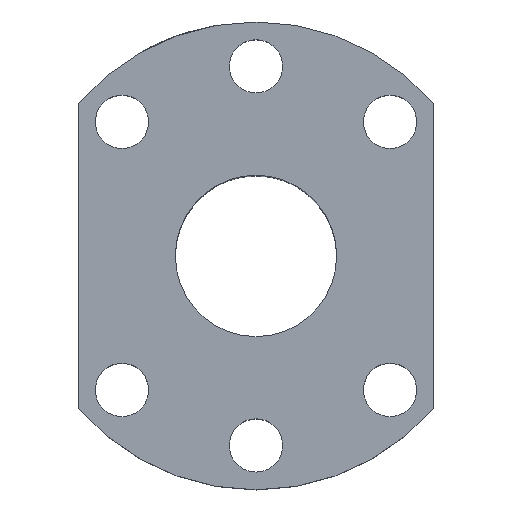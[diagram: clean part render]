
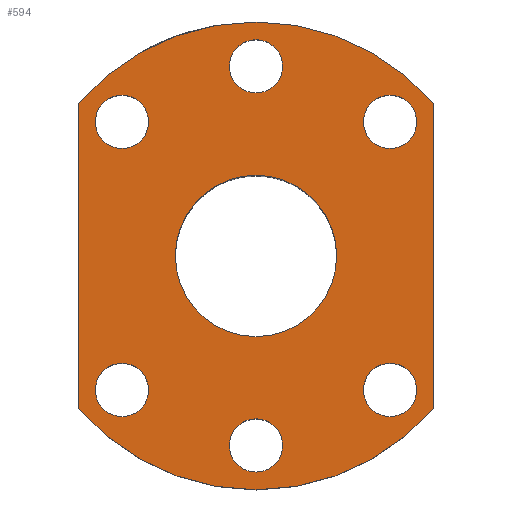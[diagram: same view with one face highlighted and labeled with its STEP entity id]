
A CAD part, top view. The second image highlights one B-rep face of the part: STEP entity #594.
In plain terms, the highlighted planar face has unit normal (0, 0, 1).
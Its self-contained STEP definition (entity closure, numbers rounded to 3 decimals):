
#67=CARTESIAN_POINT('',(0.,0.,34.5));
#68=DIRECTION('',(0.,0.,-1.));
#69=DIRECTION('',(1.,0.,0.));
#70=AXIS2_PLACEMENT_3D('',#67,#68,#69);
#72=CARTESIAN_POINT('',(0.,0.,34.5));
#73=DIRECTION('',(0.,0.,-1.));
#74=DIRECTION('',(-1.,0.,0.));
#75=AXIS2_PLACEMENT_3D('',#72,#73,#74);
#77=CARTESIAN_POINT('',(16.617,16.617,34.5));
#78=DIRECTION('',(0.,0.,-1.));
#79=DIRECTION('',(1.,0.,0.));
#80=AXIS2_PLACEMENT_3D('',#77,#78,#79);
#82=CARTESIAN_POINT('',(16.617,16.617,34.5));
#83=DIRECTION('',(0.,0.,-1.));
#84=DIRECTION('',(-1.,0.,0.));
#85=AXIS2_PLACEMENT_3D('',#82,#83,#84);
#87=CARTESIAN_POINT('',(0.,23.5,34.5));
#88=DIRECTION('',(0.,0.,-1.));
#89=DIRECTION('',(1.,0.,0.));
#90=AXIS2_PLACEMENT_3D('',#87,#88,#89);
#92=CARTESIAN_POINT('',(0.,23.5,34.5));
#93=DIRECTION('',(0.,0.,-1.));
#94=DIRECTION('',(-1.,0.,0.));
#95=AXIS2_PLACEMENT_3D('',#92,#93,#94);
#97=CARTESIAN_POINT('',(-16.617,16.617,34.5));
#98=DIRECTION('',(0.,0.,-1.));
#99=DIRECTION('',(1.,0.,0.));
#100=AXIS2_PLACEMENT_3D('',#97,#98,#99);
#102=CARTESIAN_POINT('',(-16.617,16.617,34.5));
#103=DIRECTION('',(0.,0.,-1.));
#104=DIRECTION('',(-1.,0.,0.));
#105=AXIS2_PLACEMENT_3D('',#102,#103,#104);
#107=CARTESIAN_POINT('',(-16.617,-16.617,34.5));
#108=DIRECTION('',(0.,0.,-1.));
#109=DIRECTION('',(1.,0.,0.));
#110=AXIS2_PLACEMENT_3D('',#107,#108,#109);
#112=CARTESIAN_POINT('',(-16.617,-16.617,34.5));
#113=DIRECTION('',(0.,0.,-1.));
#114=DIRECTION('',(-1.,0.,0.));
#115=AXIS2_PLACEMENT_3D('',#112,#113,#114);
#117=CARTESIAN_POINT('',(0.,-23.5,34.5));
#118=DIRECTION('',(0.,0.,-1.));
#119=DIRECTION('',(1.,0.,0.));
#120=AXIS2_PLACEMENT_3D('',#117,#118,#119);
#122=CARTESIAN_POINT('',(0.,-23.5,34.5));
#123=DIRECTION('',(0.,0.,-1.));
#124=DIRECTION('',(-1.,0.,0.));
#125=AXIS2_PLACEMENT_3D('',#122,#123,#124);
#127=CARTESIAN_POINT('',(16.617,-16.617,34.5));
#128=DIRECTION('',(0.,0.,-1.));
#129=DIRECTION('',(1.,0.,0.));
#130=AXIS2_PLACEMENT_3D('',#127,#128,#129);
#132=CARTESIAN_POINT('',(16.617,-16.617,34.5));
#133=DIRECTION('',(0.,0.,-1.));
#134=DIRECTION('',(-1.,0.,0.));
#135=AXIS2_PLACEMENT_3D('',#132,#133,#134);
#137=CARTESIAN_POINT('',(0.,0.,34.5));
#138=DIRECTION('',(0.,0.,1.));
#139=DIRECTION('',(0.759,0.652,0.));
#140=AXIS2_PLACEMENT_3D('',#137,#138,#139);
#142=DIRECTION('',(0.,1.,0.));
#143=VECTOR('',#142,37.789);
#144=CARTESIAN_POINT('',(22.,-18.894,34.5));
#145=LINE('',#144,#143);
#146=CARTESIAN_POINT('',(0.,0.,34.5));
#147=DIRECTION('',(0.,0.,1.));
#148=DIRECTION('',(-0.759,-0.652,0.));
#149=AXIS2_PLACEMENT_3D('',#146,#147,#148);
#151=DIRECTION('',(0.,-1.,0.));
#152=VECTOR('',#151,37.789);
#153=CARTESIAN_POINT('',(-22.,18.894,34.5));
#154=LINE('',#153,#152);
#431=CARTESIAN_POINT('',(10.,0.,34.5));
#432=CARTESIAN_POINT('',(-10.,0.,34.5));
#433=VERTEX_POINT('',#431);
#434=VERTEX_POINT('',#432);
#435=CARTESIAN_POINT('',(19.917,16.617,34.5));
#436=CARTESIAN_POINT('',(13.317,16.617,34.5));
#437=VERTEX_POINT('',#435);
#438=VERTEX_POINT('',#436);
#439=CARTESIAN_POINT('',(3.3,23.5,34.5));
#440=CARTESIAN_POINT('',(-3.3,23.5,34.5));
#441=VERTEX_POINT('',#439);
#442=VERTEX_POINT('',#440);
#443=CARTESIAN_POINT('',(-13.317,16.617,34.5));
#444=CARTESIAN_POINT('',(-19.917,16.617,34.5));
#445=VERTEX_POINT('',#443);
#446=VERTEX_POINT('',#444);
#447=CARTESIAN_POINT('',(-13.317,-16.617,34.5));
#448=CARTESIAN_POINT('',(-19.917,-16.617,34.5));
#449=VERTEX_POINT('',#447);
#450=VERTEX_POINT('',#448);
#451=CARTESIAN_POINT('',(3.3,-23.5,34.5));
#452=CARTESIAN_POINT('',(-3.3,-23.5,34.5));
#453=VERTEX_POINT('',#451);
#454=VERTEX_POINT('',#452);
#455=CARTESIAN_POINT('',(19.917,-16.617,34.5));
#456=CARTESIAN_POINT('',(13.317,-16.617,34.5));
#457=VERTEX_POINT('',#455);
#458=VERTEX_POINT('',#456);
#459=CARTESIAN_POINT('',(22.,18.894,34.5));
#460=CARTESIAN_POINT('',(-22.,18.894,34.5));
#461=VERTEX_POINT('',#459);
#462=VERTEX_POINT('',#460);
#463=CARTESIAN_POINT('',(-22.,-18.894,34.5));
#464=VERTEX_POINT('',#463);
#465=CARTESIAN_POINT('',(22.,-18.894,34.5));
#466=VERTEX_POINT('',#465);
#539=CARTESIAN_POINT('',(0.,0.,34.5));
#540=DIRECTION('',(0.,0.,1.));
#541=DIRECTION('',(1.,0.,0.));
#542=AXIS2_PLACEMENT_3D('',#539,#540,#541);
#543=PLANE('',#542);
#545=ORIENTED_EDGE('',*,*,#544,.F.);
#547=ORIENTED_EDGE('',*,*,#546,.F.);
#549=ORIENTED_EDGE('',*,*,#548,.F.);
#551=ORIENTED_EDGE('',*,*,#550,.F.);
#552=EDGE_LOOP('',(#545,#547,#549,#551));
#553=FACE_OUTER_BOUND('',#552,.F.);
#555=ORIENTED_EDGE('',*,*,#554,.F.);
#557=ORIENTED_EDGE('',*,*,#556,.F.);
#558=EDGE_LOOP('',(#555,#557));
#559=FACE_BOUND('',#558,.F.);
#561=ORIENTED_EDGE('',*,*,#560,.F.);
#563=ORIENTED_EDGE('',*,*,#562,.F.);
#564=EDGE_LOOP('',(#561,#563));
#565=FACE_BOUND('',#564,.F.);
#567=ORIENTED_EDGE('',*,*,#566,.F.);
#569=ORIENTED_EDGE('',*,*,#568,.F.);
#570=EDGE_LOOP('',(#567,#569));
#571=FACE_BOUND('',#570,.F.);
#573=ORIENTED_EDGE('',*,*,#572,.F.);
#575=ORIENTED_EDGE('',*,*,#574,.F.);
#576=EDGE_LOOP('',(#573,#575));
#577=FACE_BOUND('',#576,.F.);
#579=ORIENTED_EDGE('',*,*,#578,.F.);
#581=ORIENTED_EDGE('',*,*,#580,.F.);
#582=EDGE_LOOP('',(#579,#581));
#583=FACE_BOUND('',#582,.F.);
#585=ORIENTED_EDGE('',*,*,#584,.F.);
#587=ORIENTED_EDGE('',*,*,#586,.F.);
#588=EDGE_LOOP('',(#585,#587));
#589=FACE_BOUND('',#588,.F.);
#590=ORIENTED_EDGE('',*,*,#512,.F.);
#591=ORIENTED_EDGE('',*,*,#526,.F.);
#592=EDGE_LOOP('',(#590,#591));
#593=FACE_BOUND('',#592,.F.);
#71=CIRCLE('',#70,10.);
#76=CIRCLE('',#75,10.);
#81=CIRCLE('',#80,3.3);
#86=CIRCLE('',#85,3.3);
#91=CIRCLE('',#90,3.3);
#96=CIRCLE('',#95,3.3);
#101=CIRCLE('',#100,3.3);
#106=CIRCLE('',#105,3.3);
#111=CIRCLE('',#110,3.3);
#116=CIRCLE('',#115,3.3);
#121=CIRCLE('',#120,3.3);
#126=CIRCLE('',#125,3.3);
#131=CIRCLE('',#130,3.3);
#136=CIRCLE('',#135,3.3);
#141=CIRCLE('',#140,29.);
#150=CIRCLE('',#149,29.);
#512=EDGE_CURVE('',#433,#434,#71,.T.);
#526=EDGE_CURVE('',#434,#433,#76,.T.);
#544=EDGE_CURVE('',#461,#462,#141,.T.);
#546=EDGE_CURVE('',#466,#461,#145,.T.);
#548=EDGE_CURVE('',#464,#466,#150,.T.);
#550=EDGE_CURVE('',#462,#464,#154,.T.);
#554=EDGE_CURVE('',#437,#438,#81,.T.);
#556=EDGE_CURVE('',#438,#437,#86,.T.);
#560=EDGE_CURVE('',#441,#442,#91,.T.);
#562=EDGE_CURVE('',#442,#441,#96,.T.);
#566=EDGE_CURVE('',#445,#446,#101,.T.);
#568=EDGE_CURVE('',#446,#445,#106,.T.);
#572=EDGE_CURVE('',#449,#450,#111,.T.);
#574=EDGE_CURVE('',#450,#449,#116,.T.);
#578=EDGE_CURVE('',#453,#454,#121,.T.);
#580=EDGE_CURVE('',#454,#453,#126,.T.);
#584=EDGE_CURVE('',#457,#458,#131,.T.);
#586=EDGE_CURVE('',#458,#457,#136,.T.);
#594=ADVANCED_FACE('',(#553,#559,#565,#571,#577,#583,#589,#593),#543,.T.);
